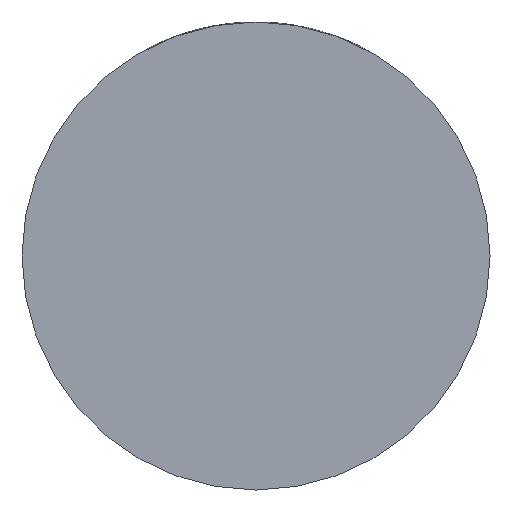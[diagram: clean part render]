
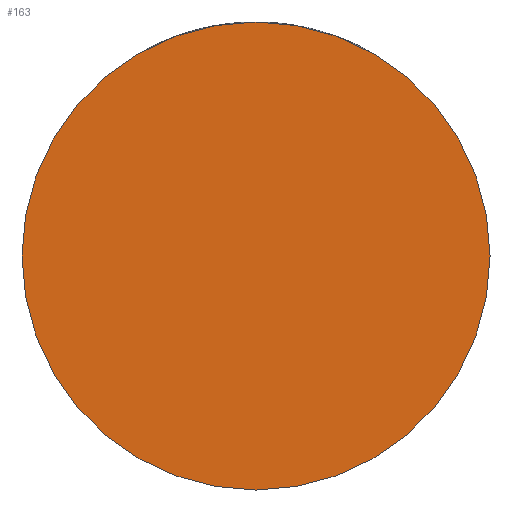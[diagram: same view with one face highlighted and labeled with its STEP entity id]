
A CAD part, front view. The second image highlights one B-rep face of the part: STEP entity #163.
In plain terms, the highlighted planar face has unit normal (0, -1, 0).
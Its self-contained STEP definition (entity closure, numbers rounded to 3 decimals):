
#96 = ORIENTED_EDGE ( 'NONE', *, *, #3935, .T. ) ;
#163 = ADVANCED_FACE ( 'NONE', ( #363 ), #725, .T. ) ;
#363 = FACE_OUTER_BOUND ( 'NONE', #2230, .T. ) ;
#643 = CARTESIAN_POINT ( 'NONE',  ( 0., -60., 0. ) ) ;
#671 = CIRCLE ( 'NONE', #2946, 64. ) ;
#704 = CARTESIAN_POINT ( 'NONE',  ( 64., -60., 0. ) ) ;
#725 = PLANE ( 'NONE',  #4500 ) ;
#1036 = CARTESIAN_POINT ( 'NONE',  ( -64., -60., 0. ) ) ;
#1313 = EDGE_CURVE ( 'NONE', #3519, #4458, #1949, .T. ) ;
#1949 = CIRCLE ( 'NONE', #3166, 64. ) ;
#2166 = CARTESIAN_POINT ( 'NONE',  ( 0., -60., 0. ) ) ;
#2170 = DIRECTION ( 'NONE',  ( 0., -1., 0. ) ) ;
#2230 = EDGE_LOOP ( 'NONE', ( #3721, #96 ) ) ;
#2542 = DIRECTION ( 'NONE',  ( 1., 0., 0. ) ) ;
#2572 = DIRECTION ( 'NONE',  ( 0., -1., 0. ) ) ;
#2932 = CARTESIAN_POINT ( 'NONE',  ( 0., -60., 0. ) ) ;
#2946 = AXIS2_PLACEMENT_3D ( 'NONE', #2166, #2572, #3660 ) ;
#3166 = AXIS2_PLACEMENT_3D ( 'NONE', #643, #4644, #2542 ) ;
#3519 = VERTEX_POINT ( 'NONE', #1036 ) ;
#3660 = DIRECTION ( 'NONE',  ( 1., 0., 0. ) ) ;
#3711 = DIRECTION ( 'NONE',  ( 1., 0., 0. ) ) ;
#3721 = ORIENTED_EDGE ( 'NONE', *, *, #1313, .T. ) ;
#3935 = EDGE_CURVE ( 'NONE', #4458, #3519, #671, .T. ) ;
#4458 = VERTEX_POINT ( 'NONE', #704 ) ;
#4500 = AXIS2_PLACEMENT_3D ( 'NONE', #2932, #2170, #3711 ) ;
#4644 = DIRECTION ( 'NONE',  ( 0., -1., 0. ) ) ;
